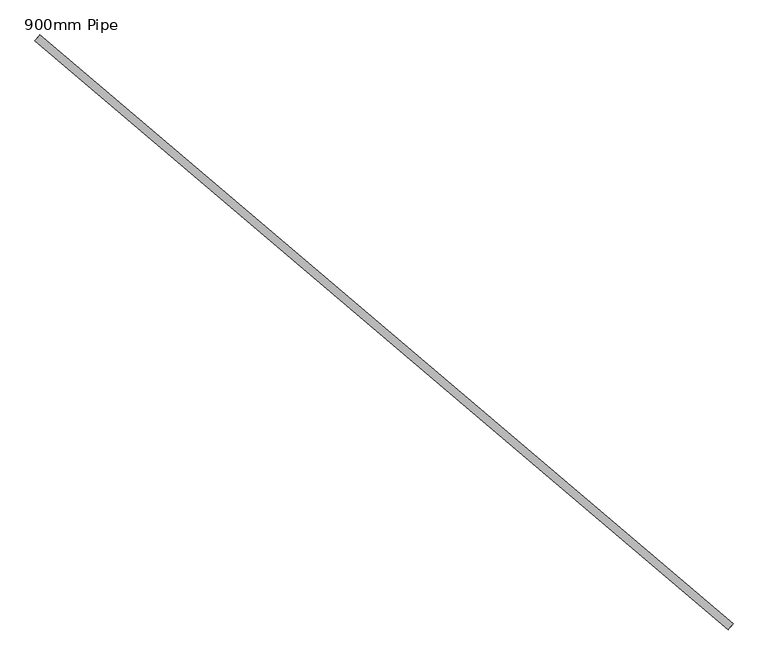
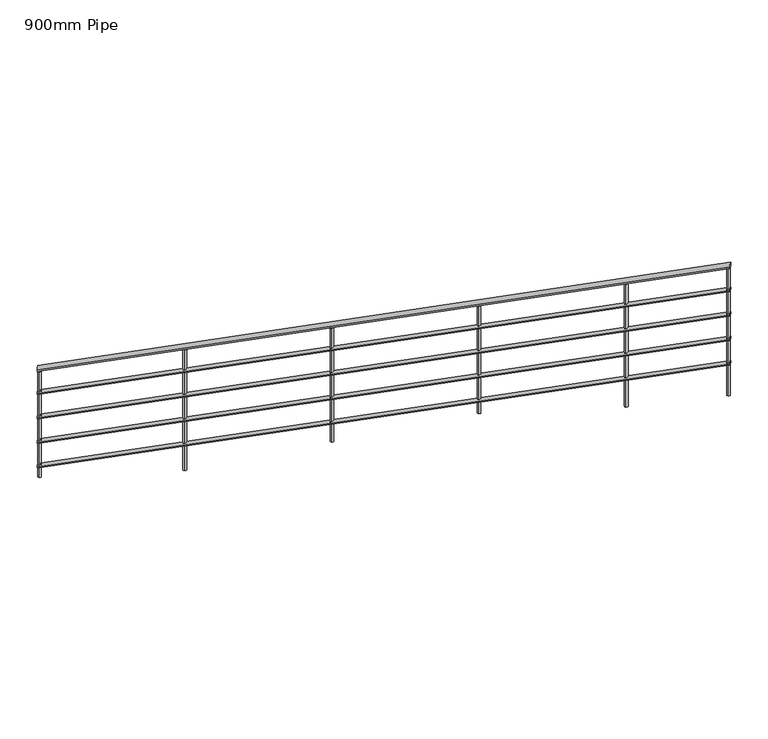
"""IFC4 building model written with IfcOpenShell, lengths in millimetres: railing geometry, 900mm Pipe."""

from ifc_helpers import new_model, si_unit, frame, origin, place, context, project, spatial, circle_curve, ellipse_curve, source, transform, mapped, element, save
from ifc_brep_helpers import plane_surface, cylinder_surface, advanced_brep


def railing_900mm_pipe_826408d6(model_context):
    return source(origin(), model_context, "Body", "AdvancedBrep", [
        advanced_brep(
        [(856273.7446172, 58464.7055502, 2058.386247), (856299.6388584, 58495.1930604, 2058.386247), (859861.5804912, 55417.4154618, 3492.7391882), (859887.4747324, 55447.902972, 3492.7391882)],
        [
            (0, 1, ellipse_curve(frame((856286.6917378, 58479.9493053, 2058.386247), z_axis=(-0.7621877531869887, 0.6473560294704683, 0.0), x_axis=(0.0, 0.0, -1.0)), 20.9078706, 20.0)),
            (1, 0, ellipse_curve(frame((856286.6917378, 58479.9493053, 2058.386247), z_axis=(-0.7621877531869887, 0.6473560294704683, 0.0), x_axis=(0.0, 0.0, -1.0)), 20.9078706, 20.0)),
            (2, 3, ellipse_curve(frame((859874.5276118, 55432.6592169, 3492.7391882), z_axis=(0.7621877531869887, -0.6473560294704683, 0.0), x_axis=(0.0, 0.0, -1.0)), 20.9078706, 20.0)),
            (3, 2, ellipse_curve(frame((859874.5276118, 55432.6592169, 3492.7391882), z_axis=(0.7621877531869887, -0.6473560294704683, 0.0), x_axis=(0.0, 0.0, -1.0)), 20.9078706, 20.0)),
            (1, 3),
            (2, 0),
        ],
        [
            plane_surface(frame((856286.6917378, 58479.9493053, 2079.2941176), z_axis=(-0.7621877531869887, 0.6473560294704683, 0.0), x_axis=(0.6473560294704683, 0.7621877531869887, 0.0))),
            plane_surface(frame((859874.5276118, 55432.6592169, 3513.6470588), z_axis=(0.7621877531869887, -0.6473560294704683, 0.0), x_axis=(0.6473560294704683, 0.7621877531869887, 0.0))),
            cylinder_surface(frame((856291.1349553, 58476.1755059, 2060.1625663), z_axis=(-0.7290917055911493, 0.61924625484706, -0.2914778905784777), x_axis=(0.6473560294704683, 0.7621877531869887, 0.0)), 20.0),
        ],
        [
            (0, [[1, 2]]),
            (1, [[3, 4]]),
            (2, [[-2, 5, -3, 6]]),
            (2, [[-1, -6, -4, -5]]),
        ],
    ),
        advanced_brep(
        [(856276.9813973, 58468.516489, 1863.6132147), (856296.4020782, 58491.3821216, 1863.6132147), (859864.8172714, 55421.2264006, 3297.9661558), (859884.2379522, 55444.0920332, 3297.9661558)],
        [
            (0, 1, ellipse_curve(frame((856286.6917378, 58479.9493053, 1863.6132147), z_axis=(-0.7621877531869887, 0.6473560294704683, 0.0), x_axis=(0.0, 0.0, -1.0)), 15.680903, 15.0)),
            (1, 0, ellipse_curve(frame((856286.6917378, 58479.9493053, 1863.6132147), z_axis=(-0.7621877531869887, 0.6473560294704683, 0.0), x_axis=(0.0, 0.0, -1.0)), 15.680903, 15.0)),
            (2, 3, ellipse_curve(frame((859874.5276118, 55432.6592169, 3297.9661558), z_axis=(0.7621877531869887, -0.6473560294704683, 0.0), x_axis=(0.0, 0.0, -1.0)), 15.680903, 15.0)),
            (3, 2, ellipse_curve(frame((859874.5276118, 55432.6592169, 3297.9661558), z_axis=(0.7621877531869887, -0.6473560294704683, 0.0), x_axis=(0.0, 0.0, -1.0)), 15.680903, 15.0)),
            (0, 2),
            (3, 1),
        ],
        [
            plane_surface(frame((856286.6917378, 58479.9493053, 1879.2941176), z_axis=(-0.7621877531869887, 0.6473560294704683, 0.0), x_axis=(0.6473560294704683, 0.7621877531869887, 0.0))),
            plane_surface(frame((859874.5276118, 55432.6592169, 3313.6470588), z_axis=(0.7621877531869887, -0.6473560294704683, 0.0), x_axis=(0.6473560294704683, 0.7621877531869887, 0.0))),
            cylinder_surface(frame((856290.024151, 58477.1189558, 1864.9454542), z_axis=(-0.7290917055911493, 0.61924625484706, -0.2914778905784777), x_axis=(0.6473560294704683, 0.7621877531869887, 0.0)), 15.0),
        ],
        [
            (0, [[1, 2]]),
            (1, [[3, 4]]),
            (2, [[-1, 5, -4, 6]]),
            (2, [[-2, -6, -3, -5]]),
        ],
    ),
        advanced_brep(
        [(856276.9813973, 58468.516489, 1663.6132147), (856296.4020782, 58491.3821216, 1663.6132147), (859864.8172714, 55421.2264006, 3097.9661558), (859884.2379522, 55444.0920332, 3097.9661558)],
        [
            (0, 1, ellipse_curve(frame((856286.6917378, 58479.9493053, 1663.6132147), z_axis=(-0.7621877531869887, 0.6473560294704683, 0.0), x_axis=(0.0, 0.0, -1.0)), 15.680903, 15.0)),
            (1, 0, ellipse_curve(frame((856286.6917378, 58479.9493053, 1663.6132147), z_axis=(-0.7621877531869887, 0.6473560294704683, 0.0), x_axis=(0.0, 0.0, -1.0)), 15.680903, 15.0)),
            (2, 3, ellipse_curve(frame((859874.5276118, 55432.6592169, 3097.9661558), z_axis=(0.7621877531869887, -0.6473560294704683, 0.0), x_axis=(0.0, 0.0, -1.0)), 15.680903, 15.0)),
            (3, 2, ellipse_curve(frame((859874.5276118, 55432.6592169, 3097.9661558), z_axis=(0.7621877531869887, -0.6473560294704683, 0.0), x_axis=(0.0, 0.0, -1.0)), 15.680903, 15.0)),
            (0, 2),
            (3, 1),
        ],
        [
            plane_surface(frame((856286.6917378, 58479.9493053, 1679.2941176), z_axis=(-0.7621877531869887, 0.6473560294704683, 0.0), x_axis=(0.6473560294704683, 0.7621877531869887, 0.0))),
            plane_surface(frame((859874.5276118, 55432.6592169, 3113.6470588), z_axis=(0.7621877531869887, -0.6473560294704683, 0.0), x_axis=(0.6473560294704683, 0.7621877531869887, 0.0))),
            cylinder_surface(frame((856290.024151, 58477.1189558, 1664.9454542), z_axis=(-0.7290917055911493, 0.61924625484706, -0.2914778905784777), x_axis=(0.6473560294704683, 0.7621877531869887, 0.0)), 15.0),
        ],
        [
            (0, [[1, 2]]),
            (1, [[3, 4]]),
            (2, [[-1, 5, -4, 6]]),
            (2, [[-2, -6, -3, -5]]),
        ],
    ),
        advanced_brep(
        [(856276.9813973, 58468.516489, 1463.6132147), (856296.4020782, 58491.3821216, 1463.6132147), (859864.8172714, 55421.2264006, 2897.9661558), (859884.2379522, 55444.0920332, 2897.9661558)],
        [
            (0, 1, ellipse_curve(frame((856286.6917378, 58479.9493053, 1463.6132147), z_axis=(-0.7621877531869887, 0.6473560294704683, 0.0), x_axis=(0.0, 0.0, -1.0)), 15.680903, 15.0)),
            (1, 0, ellipse_curve(frame((856286.6917378, 58479.9493053, 1463.6132147), z_axis=(-0.7621877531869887, 0.6473560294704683, 0.0), x_axis=(0.0, 0.0, -1.0)), 15.680903, 15.0)),
            (2, 3, ellipse_curve(frame((859874.5276118, 55432.6592169, 2897.9661558), z_axis=(0.7621877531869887, -0.6473560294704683, 0.0), x_axis=(0.0, 0.0, -1.0)), 15.680903, 15.0)),
            (3, 2, ellipse_curve(frame((859874.5276118, 55432.6592169, 2897.9661558), z_axis=(0.7621877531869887, -0.6473560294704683, 0.0), x_axis=(0.0, 0.0, -1.0)), 15.680903, 15.0)),
            (0, 2),
            (3, 1),
        ],
        [
            plane_surface(frame((856286.6917378, 58479.9493053, 1479.2941176), z_axis=(-0.7621877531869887, 0.6473560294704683, 0.0), x_axis=(0.6473560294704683, 0.7621877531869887, 0.0))),
            plane_surface(frame((859874.5276118, 55432.6592169, 2913.6470588), z_axis=(0.7621877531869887, -0.6473560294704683, 0.0), x_axis=(0.6473560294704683, 0.7621877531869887, 0.0))),
            cylinder_surface(frame((856290.024151, 58477.1189558, 1464.9454542), z_axis=(-0.7290917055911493, 0.61924625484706, -0.2914778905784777), x_axis=(0.6473560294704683, 0.7621877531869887, 0.0)), 15.0),
        ],
        [
            (0, [[1, 2]]),
            (1, [[3, 4]]),
            (2, [[-1, 5, -4, 6]]),
            (2, [[-2, -6, -3, -5]]),
        ],
    ),
        advanced_brep(
        [(856276.9813973, 58468.516489, 1263.6132147), (856296.4020782, 58491.3821216, 1263.6132147), (859864.8172714, 55421.2264006, 2697.9661558), (859884.2379522, 55444.0920332, 2697.9661558)],
        [
            (0, 1, ellipse_curve(frame((856286.6917378, 58479.9493053, 1263.6132147), z_axis=(-0.7621877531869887, 0.6473560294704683, 0.0), x_axis=(0.0, 0.0, -1.0)), 15.680903, 15.0)),
            (1, 0, ellipse_curve(frame((856286.6917378, 58479.9493053, 1263.6132147), z_axis=(-0.7621877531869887, 0.6473560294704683, 0.0), x_axis=(0.0, 0.0, -1.0)), 15.680903, 15.0)),
            (2, 3, ellipse_curve(frame((859874.5276118, 55432.6592169, 2697.9661558), z_axis=(0.7621877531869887, -0.6473560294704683, 0.0), x_axis=(0.0, 0.0, -1.0)), 15.680903, 15.0)),
            (3, 2, ellipse_curve(frame((859874.5276118, 55432.6592169, 2697.9661558), z_axis=(0.7621877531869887, -0.6473560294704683, 0.0), x_axis=(0.0, 0.0, -1.0)), 15.680903, 15.0)),
            (0, 2),
            (3, 1),
        ],
        [
            plane_surface(frame((856286.6917378, 58479.9493053, 1279.2941176), z_axis=(-0.7621877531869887, 0.6473560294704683, 0.0), x_axis=(0.6473560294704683, 0.7621877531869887, 0.0))),
            plane_surface(frame((859874.5276118, 55432.6592169, 2713.6470588), z_axis=(0.7621877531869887, -0.6473560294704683, 0.0), x_axis=(0.6473560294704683, 0.7621877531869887, 0.0))),
            cylinder_surface(frame((856290.024151, 58477.1189558, 1264.9454542), z_axis=(-0.7290917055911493, 0.61924625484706, -0.2914778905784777), x_axis=(0.6473560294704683, 0.7621877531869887, 0.0)), 15.0),
        ],
        [
            (0, [[1, 2]]),
            (1, [[3, 4]]),
            (2, [[-1, 5, -4, 6]]),
            (2, [[-2, -6, -3, -5]]),
        ],
    ),
        advanced_brep(
        [(859343.5347009, 55900.0525343, 3256.3147824), (859327.3508002, 55880.9978405, 3256.3147824), (859327.3508002, 55880.9978405, 2255.0588235), (859343.5347009, 55900.0525343, 2255.0588235)],
        [
            (0, 1, ellipse_curve(frame((859335.4427505, 55890.5251874, 3256.3147824), z_axis=(0.22216087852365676, -0.18868996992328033, -0.9565775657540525), x_axis=(0.7290917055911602, -0.6192462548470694, 0.2914778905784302)), 13.0674191, 12.5)),
            (1, 2),
            (2, 3, circle_curve(frame((859335.4427505, 55890.5251874, 2255.0588235), z_axis=(0.0, 0.0, 1.0), x_axis=(-0.6473560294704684, -0.7621877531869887, 0.0)), 12.5)),
            (3, 0),
            (3, 2, circle_curve(frame((859335.4427505, 55890.5251874, 2255.0588235), z_axis=(0.0, 0.0, 1.0), x_axis=(-0.6473560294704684, -0.7621877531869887, 0.0)), 12.5)),
            (1, 0, ellipse_curve(frame((859335.4427505, 55890.5251874, 3256.3147824), z_axis=(0.22216087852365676, -0.18868996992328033, -0.9565775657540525), x_axis=(0.7290917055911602, -0.6192462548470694, 0.2914778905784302)), 13.0674191, 12.5)),
        ],
        [
            cylinder_surface(frame((859335.4427505, 55890.5251874, 2155.0588235), z_axis=(0.0, 0.0, 1.0), x_axis=(-0.6473560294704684, -0.7621877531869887, 0.0)), 12.5),
            plane_surface(frame((859338.3135436, 55855.2865929, 3263.9325099), z_axis=(-0.22216087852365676, 0.18868996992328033, 0.9565775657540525), x_axis=(0.6473560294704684, 0.7621877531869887, 0.0))),
            plane_surface(frame((859300.204156, 55887.6543943, 2255.0588235), z_axis=(0.0, 0.0, -1.0), x_axis=(0.6473560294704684, 0.7621877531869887, 0.0))),
        ],
        [
            (0, [[1, 2, 3, 4]]),
            (0, [[5, -2, 6, -4]]),
            (1, [[-6, -1]]),
            (2, [[-5, -3]]),
        ],
    ),
        advanced_brep(
        [(858581.3469477, 56547.4085638, 2951.6056809), (858565.163047, 56528.35387, 2951.6056809), (858565.163047, 56528.35387, 2075.7647059), (858581.3469477, 56547.4085638, 2075.7647059)],
        [
            (0, 1, ellipse_curve(frame((858573.2549973, 56537.8812169, 2951.6056809), z_axis=(0.22216087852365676, -0.18868996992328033, -0.9565775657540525), x_axis=(0.7290917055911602, -0.6192462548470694, 0.2914778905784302)), 13.0674191, 12.5)),
            (1, 2),
            (2, 3, circle_curve(frame((858573.2549973, 56537.8812169, 2075.7647059), z_axis=(0.0, 0.0, 1.0), x_axis=(-0.6473560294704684, -0.7621877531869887, 0.0)), 12.5)),
            (3, 0),
            (3, 2, circle_curve(frame((858573.2549973, 56537.8812169, 2075.7647059), z_axis=(0.0, 0.0, 1.0), x_axis=(-0.6473560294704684, -0.7621877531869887, 0.0)), 12.5)),
            (1, 0, ellipse_curve(frame((858573.2549973, 56537.8812169, 2951.6056809), z_axis=(0.22216087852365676, -0.18868996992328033, -0.9565775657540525), x_axis=(0.7290917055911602, -0.6192462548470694, 0.2914778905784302)), 13.0674191, 12.5)),
        ],
        [
            cylinder_surface(frame((858573.2549973, 56537.8812169, 1975.7647059), z_axis=(0.0, 0.0, 1.0), x_axis=(-0.6473560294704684, -0.7621877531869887, 0.0)), 12.5),
            plane_surface(frame((858576.1257904, 56502.6426223, 2959.2234084), z_axis=(-0.22216087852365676, 0.18868996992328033, 0.9565775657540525), x_axis=(0.6473560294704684, 0.7621877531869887, 0.0))),
            plane_surface(frame((858538.0164028, 56535.0104238, 2075.7647059), z_axis=(0.0, 0.0, -1.0), x_axis=(0.6473560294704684, 0.7621877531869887, 0.0))),
        ],
        [
            (0, [[1, 2, 3, 4]]),
            (0, [[5, -2, 6, -4]]),
            (1, [[-6, -1]]),
            (2, [[-5, -3]]),
        ],
    ),
        advanced_brep(
        [(857819.1591945, 57194.7645933, 2646.8965794), (857802.9752938, 57175.7098994, 2646.8965794), (857802.9752938, 57175.7098994, 1717.1764706), (857819.1591945, 57194.7645933, 1717.1764706)],
        [
            (0, 1, ellipse_curve(frame((857811.0672442, 57185.2372464, 2646.8965794), z_axis=(0.22216087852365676, -0.18868996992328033, -0.9565775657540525), x_axis=(0.7290917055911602, -0.6192462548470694, 0.2914778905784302)), 13.0674191, 12.5)),
            (1, 2),
            (2, 3, circle_curve(frame((857811.0672442, 57185.2372464, 1717.1764706), z_axis=(0.0, 0.0, 1.0), x_axis=(-0.6473560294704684, -0.7621877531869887, 0.0)), 12.5)),
            (3, 0),
            (3, 2, circle_curve(frame((857811.0672442, 57185.2372464, 1717.1764706), z_axis=(0.0, 0.0, 1.0), x_axis=(-0.6473560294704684, -0.7621877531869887, 0.0)), 12.5)),
            (1, 0, ellipse_curve(frame((857811.0672442, 57185.2372464, 2646.8965794), z_axis=(0.22216087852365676, -0.18868996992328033, -0.9565775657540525), x_axis=(0.7290917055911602, -0.6192462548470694, 0.2914778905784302)), 13.0674191, 12.5)),
        ],
        [
            cylinder_surface(frame((857811.0672442, 57185.2372464, 1617.1764706), z_axis=(0.0, 0.0, 1.0), x_axis=(-0.6473560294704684, -0.7621877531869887, 0.0)), 12.5),
            plane_surface(frame((857813.9380372, 57149.9986518, 2654.5143069), z_axis=(-0.22216087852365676, 0.18868996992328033, 0.9565775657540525), x_axis=(0.6473560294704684, 0.7621877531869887, 0.0))),
            plane_surface(frame((857775.8286496, 57182.3664533, 1717.1764706), z_axis=(0.0, 0.0, -1.0), x_axis=(0.6473560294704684, 0.7621877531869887, 0.0))),
        ],
        [
            (0, [[1, 2, 3, 4]]),
            (0, [[5, -2, 6, -4]]),
            (1, [[-6, -1]]),
            (2, [[-5, -3]]),
        ],
    ),
        advanced_brep(
        [(857056.9714413, 57842.1206227, 2342.1874779), (857040.7875406, 57823.0659289, 2342.1874779), (857040.7875406, 57823.0659289, 1358.5882353), (857056.9714413, 57842.1206227, 1358.5882353)],
        [
            (0, 1, ellipse_curve(frame((857048.879491, 57832.5932758, 2342.1874779), z_axis=(0.22216087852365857, -0.18868996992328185, -0.9565775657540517), x_axis=(0.7290917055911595, -0.6192462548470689, 0.29147789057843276)), 13.0674191, 12.5)),
            (1, 2),
            (2, 3, circle_curve(frame((857048.879491, 57832.5932758, 1358.5882353), z_axis=(0.0, 0.0, 1.0), x_axis=(-0.6473560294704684, -0.7621877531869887, 0.0)), 12.5)),
            (3, 0),
            (3, 2, circle_curve(frame((857048.879491, 57832.5932758, 1358.5882353), z_axis=(0.0, 0.0, 1.0), x_axis=(-0.6473560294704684, -0.7621877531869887, 0.0)), 12.5)),
            (1, 0, ellipse_curve(frame((857048.879491, 57832.5932758, 2342.1874779), z_axis=(0.22216087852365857, -0.18868996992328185, -0.9565775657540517), x_axis=(0.7290917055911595, -0.6192462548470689, 0.29147789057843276)), 13.0674191, 12.5)),
        ],
        [
            cylinder_surface(frame((857048.879491, 57832.5932758, 1258.5882353), z_axis=(0.0, 0.0, 1.0), x_axis=(-0.6473560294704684, -0.7621877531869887, 0.0)), 12.5),
            plane_surface(frame((857051.7502841, 57797.3546813, 2349.8052054), z_axis=(-0.22216087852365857, 0.18868996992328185, 0.9565775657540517), x_axis=(0.6473560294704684, 0.7621877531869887, 0.0))),
            plane_surface(frame((857013.6408964, 57829.7224827, 1358.5882353), z_axis=(0.0, 0.0, -1.0), x_axis=(0.6473560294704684, 0.7621877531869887, 0.0))),
        ],
        [
            (0, [[1, 2, 3, 4]]),
            (0, [[5, -2, 6, -4]]),
            (1, [[-6, -1]]),
            (2, [[-5, -3]]),
        ],
    ),
        advanced_brep(
        [(859873.0922152, 55450.2785142, 3468.0224538), (859856.9083145, 55431.2238203, 3468.0224538), (859856.9083145, 55431.2238203, 2434.3529412), (859873.0922152, 55450.2785142, 2434.3529412)],
        [
            (0, 1, ellipse_curve(frame((859865.0002649, 55440.7511673, 3468.0224538), z_axis=(0.22216087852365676, -0.18868996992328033, -0.9565775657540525), x_axis=(0.7290917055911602, -0.6192462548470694, 0.2914778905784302)), 13.0674191, 12.5)),
            (1, 2),
            (2, 3, circle_curve(frame((859865.0002649, 55440.7511673, 2434.3529412), z_axis=(0.0, 0.0, 1.0), x_axis=(-0.6473560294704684, -0.7621877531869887, 0.0)), 12.5)),
            (3, 0),
            (3, 2, circle_curve(frame((859865.0002649, 55440.7511673, 2434.3529412), z_axis=(0.0, 0.0, 1.0), x_axis=(-0.6473560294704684, -0.7621877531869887, 0.0)), 12.5)),
            (1, 0, ellipse_curve(frame((859865.0002649, 55440.7511673, 3468.0224538), z_axis=(0.22216087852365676, -0.18868996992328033, -0.9565775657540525), x_axis=(0.7290917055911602, -0.6192462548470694, 0.2914778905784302)), 13.0674191, 12.5)),
        ],
        [
            cylinder_surface(frame((859865.0002649, 55440.7511673, 2334.3529412), z_axis=(0.0, 0.0, 1.0), x_axis=(-0.6473560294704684, -0.7621877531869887, 0.0)), 12.5),
            plane_surface(frame((859867.871058, 55405.5125727, 3475.6401813), z_axis=(-0.22216087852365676, 0.18868996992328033, 0.9565775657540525), x_axis=(0.6473560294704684, 0.7621877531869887, 0.0))),
            plane_surface(frame((859829.7616703, 55437.8803742, 2434.3529412), z_axis=(0.0, 0.0, -1.0), x_axis=(0.6473560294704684, 0.7621877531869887, 0.0))),
        ],
        [
            (0, [[1, 2, 3, 4]]),
            (0, [[5, -2, 6, -4]]),
            (1, [[-6, -1]]),
            (2, [[-5, -3]]),
        ],
    ),
        advanced_brep(
        [(856304.3110351, 58481.3847018, 2041.2872401), (856288.1271343, 58462.330008, 2041.2872401), (856288.1271343, 58462.330008, 1179.2941176), (856304.3110351, 58481.3847018, 1179.2941176)],
        [
            (0, 1, ellipse_curve(frame((856296.2190847, 58471.8573549, 2041.2872401), z_axis=(0.22216087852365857, -0.18868996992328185, -0.9565775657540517), x_axis=(0.7290917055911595, -0.6192462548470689, 0.29147789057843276)), 13.0674191, 12.5)),
            (1, 2),
            (2, 3, circle_curve(frame((856296.2190847, 58471.8573549, 1179.2941176), z_axis=(0.0, 0.0, 1.0), x_axis=(-0.6473560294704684, -0.7621877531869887, 0.0)), 12.5)),
            (3, 0),
            (3, 2, circle_curve(frame((856296.2190847, 58471.8573549, 1179.2941176), z_axis=(0.0, 0.0, 1.0), x_axis=(-0.6473560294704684, -0.7621877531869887, 0.0)), 12.5)),
            (1, 0, ellipse_curve(frame((856296.2190847, 58471.8573549, 2041.2872401), z_axis=(0.22216087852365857, -0.18868996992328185, -0.9565775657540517), x_axis=(0.7290917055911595, -0.6192462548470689, 0.29147789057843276)), 13.0674191, 12.5)),
        ],
        [
            cylinder_surface(frame((856296.2190847, 58471.8573549, 1079.2941176), z_axis=(0.0, 0.0, 1.0), x_axis=(-0.6473560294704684, -0.7621877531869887, 0.0)), 12.5),
            plane_surface(frame((856299.0898778, 58436.6187604, 2048.9049677), z_axis=(-0.22216087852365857, 0.18868996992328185, 0.9565775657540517), x_axis=(0.6473560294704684, 0.7621877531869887, 0.0))),
            plane_surface(frame((856260.9804901, 58468.9865618, 1179.2941176), z_axis=(0.0, 0.0, -1.0), x_axis=(0.6473560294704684, 0.7621877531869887, 0.0))),
        ],
        [
            (0, [[1, 2, 3, 4]]),
            (0, [[5, -2, 6, -4]]),
            (1, [[-6, -1]]),
            (2, [[-5, -3]]),
        ],
    ),
    ])


if __name__ == "__main__":
    model = new_model("IFC4")
    model_context = context("Model", 3, world=origin())
    ifc_project = project(units=[si_unit("LENGTHUNIT", "METRE", prefix="MILLI")], contexts=[model_context])
    site = spatial("IfcSite", under=ifc_project)
    building = spatial("IfcBuilding", under=site)
    placement = place(None, origin())
    railing_900mm_pipe_shape = railing_900mm_pipe_826408d6(model_context)
    element("IfcRailing", 1, ObjectType="900mm Pipe", at=placement, inside=building, context=model_context, shape_type="MappedRepresentation", body=[
        mapped(railing_900mm_pipe_shape, transform((0.0, 0.0, 0.0), x_axis=(1.0, 0.0, 0.0), y_axis=(0.0, 1.0, 0.0), z_axis=(0.0, 0.0, 1.0))),
    ])
    save(model, "model.ifc")
